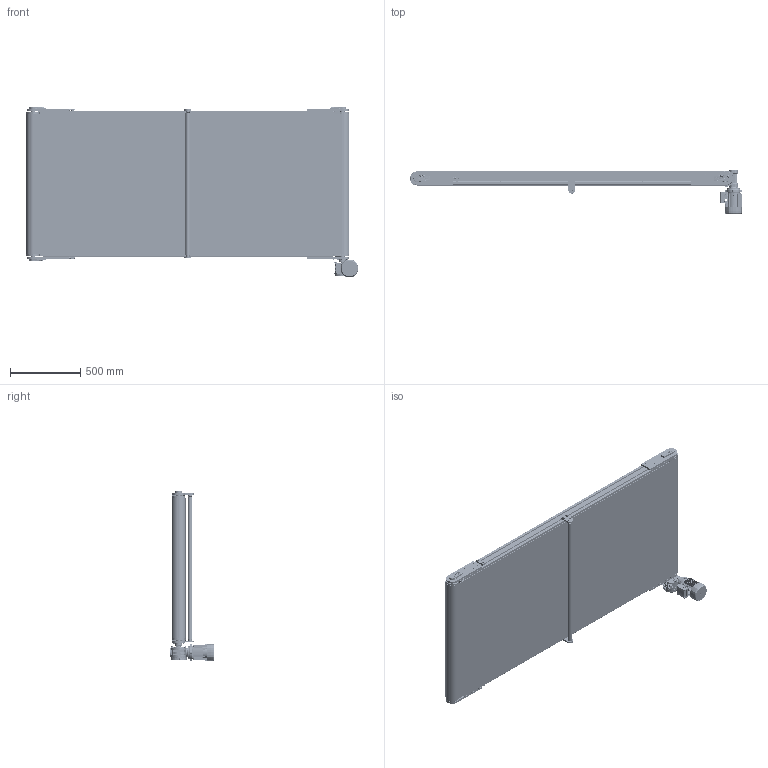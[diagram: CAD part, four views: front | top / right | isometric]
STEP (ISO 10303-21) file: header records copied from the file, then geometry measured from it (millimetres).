
FILE_DESCRIPTION (( 'STEP AP203' ), '1' );
FILE_NAME ('NASTRO_RETTILINEO_TAPPETO.step', '2026-05-05T07:29:52', ( 'Utente Windows' ), ( '' ), 'SwSTEP 2.0', 'SolidWorks 2024', '' );
FILE_SCHEMA (( 'CONFIG_CONTROL_DESIGN' ));
Length unit declared in the file: millimetre
Products named in the file (51): RONDELLE FASCIA LARGA UNI 6593_8.4x32 UNI 6593; VITI TSEI UNI 5933_M4x12 UNI 5933; 084.803.003; BLOCCO_TRAINO_95_STANDARD_CON TENDINASTRO E CARTER; VITI TE UNI 5739_M8x12 UNI 5739; 084.802.060_Default<A macchina>; 084.810.003; NASTRO_RETTILINEO_TAPPETO; 084.803.017; 084.302.060; 084.802.019_084.802.019; 084.303.001; LAMIERA_STANDARD; CHIAVETTE_A 8x7x70 UNI 6604-69; BLOCCO_BRACCIO_CH05P_CH05P; VITI TE UNI 5739_M6x12 UNI 5739; BLOCCO_REGGITAPPETO; 084.812.002; 25UNI7435; 084.802.062; RULLO_REGGITAPPETO; TELAIO_95_STANDARD_Default<A macchina>; TAPPETO_STANDARD; VITI TCEI UNI 5931_M4x25 UNI 5931; 084.808.003_084.808.003; RULLO_95_Default<A macchina>; BLOCCO_TRAINO_95_STANDARD_49_SX_CON TENDINASTRO E SENZA CARTER; 084.802.014; VITE_DADO_M5X12; VITI TSEI UNI 5933_M5x12 UNI 5933; 084.802.071; 30UNI7435; VITI TE UNI 5739_M8x16 UNI 5739; 084.802.013-2; 084.802.028; 084.301.000 VITI ALUSIC_084.301.003; BLOCCO_PERNO_95_49; BLOCCO_RINVIO_95_STANDARD_CON TENDINASTRO E CARTER; VITE_RONDELLA_M8X20; 084.802.068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
Assembly tree (131 placements, depth 4):
  NASTRO_RETTILINEO_TAPPETO
    TAPPETO_STANDARD
    TELAIO_95_STANDARD_Default<A macchina>
    LAMIERA_STANDARD
    RULLO_95_Default<A macchina>  x2
    BLOCCO_PERNO_95_RINVIO  x3
      084.812.003
      084.810.003
      30UNI7435
    BLOCCO_TRAINO_95_STANDARD_CON TENDINASTRO E CARTER
      084.808.002_084.808.002
      084.302.060  x2
      084.802.019_084.802.019
      084.301.000 VITI ALUSIC_084.301.003  x6
      VITI TCEI UNI 5931_M4x25 UNI 5931  x2
      084.802.071
      084.802.068
      VITI TSEI UNI 5933_M4x12 UNI 5933  x2
    BLOCCO_PERNO_95_49
      084.812.002
      084.810.003
      CHIAVETTE_A 8x7x70 UNI 6604-69
      CHIAVETTE_A 8x7x20 UNI 6604-69
      RONDELLE FASCIA LARGA UNI 6593_8.4x32 UNI 6593
      VITI TE UNI 5739_M8x16 UNI 5739
      25UNI7435
      30UNI7435
    BLOCCO_TRAINO_95_STANDARD_49_SX_CON TENDINASTRO E SENZA CARTER
      084.808.003_084.808.003
      084.302.060  x2
      084.802.034_084.802.034
      084.301.000 VITI ALUSIC_084.301.003  x6
      VITI TCEI UNI 5931_M4x25 UNI 5931  x2
      084.802.068
      BLOCCO_BRACCIO_CH05P_CH05P
        084.808.013
        084.802.062
        084.802.060_Default<A macchina>
        VITI TE UNI 5739_M8x12 UNI 5739  x4
        VITI TE UNI 5739_M6x12 UNI 5739  x4
        084.803.017
        VITI TCEI UNI 5931_M6x12 UNI 5931  x4
    BLOCCO_RINVIO_95_STANDARD_CON TENDINASTRO E CARTER  x2
      084.808.002_084.808.002
      084.803.003
      084.302.060
      084.802.019_084.802.019
      VITI TSEI UNI 5933_M4x12 UNI 5933
      084.302.000 DADI ALUSIC 13x13-1_084.302.004
      084.301.000 VITI ALUSIC_084.301.003
      084.802.071
    VITE_RONDELLA_M8X20  x17
      084.303.001
      084.301.000 VITI ALUSIC_084.301.003
    VITE_DADO_M5X12  x10
      084.302.000 DADI ALUSIC 13x13-1_084.302.007
      VITI TSEI UNI 5933_M5x12 UNI 5933
    BLOCCO_REGGITAPPETO  x2
      084.301.000 VITI ALUSIC_084.301.003
      084.302.000 DADI ALUSIC 13x13-1_084.302.004
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Bounding box: 2359.8 x 316.5 x 1208.7 mm (x, y, z)
Volume: 30425254 mm3; surface area: 24916896.1 mm2
Topology: 204 solids, 209 shells, 9323 faces, 24017 edges, 15250 vertices
Faces by surface type: plane 4517, cylinder 2498, bspline 914, cone 858, torus 476, sphere 60
Entity records: 201925 total; most frequent: CARTESIAN_POINT 68204, ORIENTED_EDGE 27550, DIRECTION 25125, EDGE_CURVE 13775, AXIS2_PLACEMENT_3D 8888, VERTEX_POINT 8806, LINE 7349, VECTOR 7349
